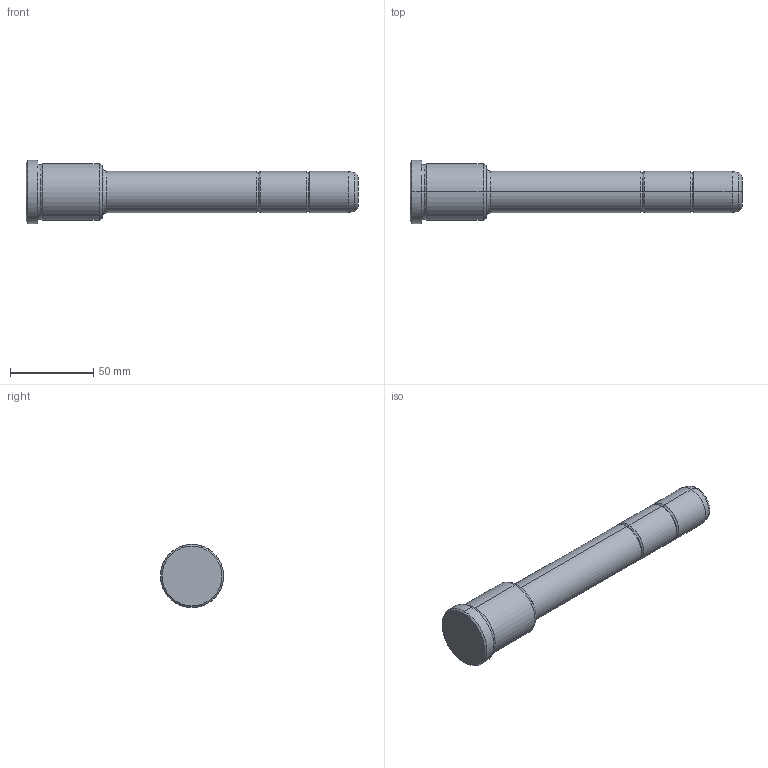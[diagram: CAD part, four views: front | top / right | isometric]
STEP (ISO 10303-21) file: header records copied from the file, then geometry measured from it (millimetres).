
FILE_DESCRIPTION(('CATIA V5 STEP Exchange'),'2;1');
FILE_NAME('C:\Users\Utente\Desktop\IO LAVORO\3D X SITO CF\X SITO\PLASTICA\351\351-25X46X200.stp','2021-08-28T09:24:22+00:00',('none'),('none'),'CATIA Version 5 Release 20 GA (IN-10)','CATIA V5 STEP AP203','none');
FILE_SCHEMA(('CONFIG_CONTROL_DESIGN'));
Length unit declared in the file: millimetre
Products named in the file (1): 351-25X46X200
Bounding box: 200 x 38 x 38 mm (x, y, z)
Volume: 118153.2 mm3; surface area: 19054.8 mm2
Topology: 1 solids, 1 shells, 36 faces, 102 edges, 70 vertices
Faces by surface type: torus 16, cylinder 10, cone 6, plane 4
Entity records: 1292 total; most frequent: CARTESIAN_POINT 321, ORIENTED_EDGE 204, DIRECTION 166, AXIS2_PLACEMENT_3D 115, EDGE_CURVE 102, CIRCLE 78, VERTEX_POINT 70, EDGE_LOOP 38
